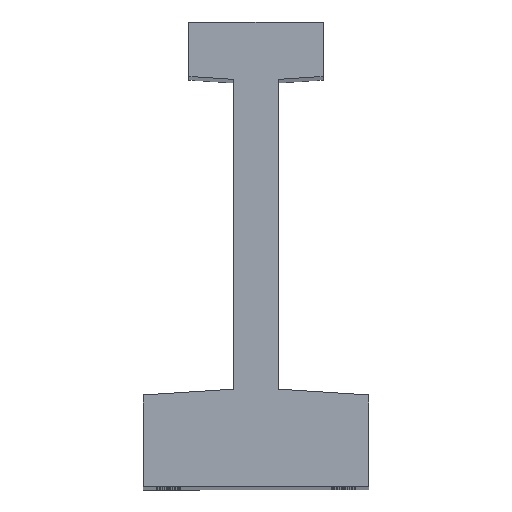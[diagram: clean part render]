
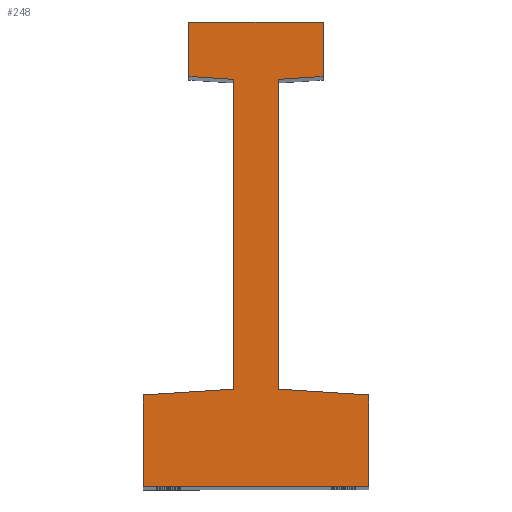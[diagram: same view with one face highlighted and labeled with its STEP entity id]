
A CAD part, top view. The second image highlights one B-rep face of the part: STEP entity #248.
In plain terms, the highlighted planar face has unit normal (0, 0, 1).
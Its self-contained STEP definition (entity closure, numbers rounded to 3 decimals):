
#32 = FACE_OUTER_BOUND ( 'NONE', #2908, .T. ) ;
#36 = LINE ( 'NONE', #3907, #3831 ) ;
#80 = LINE ( 'NONE', #543, #2526 ) ;
#163 = CARTESIAN_POINT ( 'NONE',  ( 0., 0., 361. ) ) ;
#196 = LINE ( 'NONE', #2015, #655 ) ;
#248 = ADVANCED_FACE ( 'NONE', ( #32 ), #4283, .T. ) ;
#255 = VECTOR ( 'NONE', #3671, 1000. ) ;
#257 = LINE ( 'NONE', #509, #934 ) ;
#367 = VERTEX_POINT ( 'NONE', #2064 ) ;
#435 = VECTOR ( 'NONE', #532, 1000. ) ;
#509 = CARTESIAN_POINT ( 'NONE',  ( 19.25, -63.7, 361. ) ) ;
#528 = DIRECTION ( 'NONE',  ( 1., 0., 0. ) ) ;
#532 = DIRECTION ( 'NONE',  ( -1., 0., 0. ) ) ;
#543 = CARTESIAN_POINT ( 'NONE',  ( 3.8, -62.7, 361. ) ) ;
#561 = DIRECTION ( 'NONE',  ( 0.998, -0.065, 0. ) ) ;
#564 = DIRECTION ( 'NONE',  ( 1., 0., 0. ) ) ;
#583 = DIRECTION ( 'NONE',  ( 0., 0., 1. ) ) ;
#655 = VECTOR ( 'NONE', #1660, 1000. ) ;
#843 = ORIENTED_EDGE ( 'NONE', *, *, #2538, .T. ) ;
#907 = CARTESIAN_POINT ( 'NONE',  ( -11.45, -9.3, 361. ) ) ;
#934 = VECTOR ( 'NONE', #4166, 1000. ) ;
#961 = DIRECTION ( 'NONE',  ( 0.998, 0.065, 0. ) ) ;
#971 = EDGE_CURVE ( 'NONE', #3815, #3046, #80, .T. ) ;
#1002 = EDGE_CURVE ( 'NONE', #2939, #3719, #3383, .T. ) ;
#1061 = CARTESIAN_POINT ( 'NONE',  ( 3.8, -9.795, 361. ) ) ;
#1138 = EDGE_CURVE ( 'NONE', #2225, #3178, #1887, .T. ) ;
#1319 = DIRECTION ( 'NONE',  ( 0., -1., 0. ) ) ;
#1344 = CARTESIAN_POINT ( 'NONE',  ( 3.8, -62.7, 361. ) ) ;
#1390 = EDGE_CURVE ( 'NONE', #3406, #1837, #2686, .T. ) ;
#1438 = VECTOR ( 'NONE', #4483, 1000. ) ;
#1450 = CARTESIAN_POINT ( 'NONE',  ( 19.25, -63.7, 361. ) ) ;
#1502 = EDGE_CURVE ( 'NONE', #4363, #2651, #4091, .T. ) ;
#1521 = LINE ( 'NONE', #3498, #3659 ) ;
#1551 = ORIENTED_EDGE ( 'NONE', *, *, #1390, .T. ) ;
#1636 = CARTESIAN_POINT ( 'NONE',  ( 11.45, -9.3, 361. ) ) ;
#1639 = DIRECTION ( 'NONE',  ( -0.998, 0.065, 0. ) ) ;
#1660 = DIRECTION ( 'NONE',  ( -0.998, -0.065, 0. ) ) ;
#1712 = CARTESIAN_POINT ( 'NONE',  ( -3.8, -9.795, 361. ) ) ;
#1748 = ORIENTED_EDGE ( 'NONE', *, *, #1138, .T. ) ;
#1833 = VECTOR ( 'NONE', #2498, 1000. ) ;
#1837 = VERTEX_POINT ( 'NONE', #2590 ) ;
#1887 = LINE ( 'NONE', #3579, #1833 ) ;
#1923 = CARTESIAN_POINT ( 'NONE',  ( -3.8, -62.7, 361. ) ) ;
#2015 = CARTESIAN_POINT ( 'NONE',  ( -19.25, -63.7, 361. ) ) ;
#2033 = EDGE_CURVE ( 'NONE', #367, #2225, #196, .T. ) ;
#2064 = CARTESIAN_POINT ( 'NONE',  ( -3.8, -62.7, 361. ) ) ;
#2183 = LINE ( 'NONE', #4210, #3259 ) ;
#2225 = VERTEX_POINT ( 'NONE', #4253 ) ;
#2230 = ORIENTED_EDGE ( 'NONE', *, *, #2033, .T. ) ;
#2237 = LINE ( 'NONE', #1061, #255 ) ;
#2367 = EDGE_CURVE ( 'NONE', #3046, #4363, #2237, .T. ) ;
#2498 = DIRECTION ( 'NONE',  ( 0., -1., 0. ) ) ;
#2508 = CARTESIAN_POINT ( 'NONE',  ( -3.8, -9.795, 361. ) ) ;
#2526 = VECTOR ( 'NONE', #1639, 1000. ) ;
#2538 = EDGE_CURVE ( 'NONE', #3719, #367, #4249, .T. ) ;
#2584 = ORIENTED_EDGE ( 'NONE', *, *, #1502, .T. ) ;
#2590 = CARTESIAN_POINT ( 'NONE',  ( -11.45, 0., 361. ) ) ;
#2651 = VERTEX_POINT ( 'NONE', #1636 ) ;
#2686 = LINE ( 'NONE', #4574, #435 ) ;
#2765 = CARTESIAN_POINT ( 'NONE',  ( 11.45, -9.3, 361. ) ) ;
#2842 = ORIENTED_EDGE ( 'NONE', *, *, #4581, .T. ) ;
#2848 = ORIENTED_EDGE ( 'NONE', *, *, #971, .T. ) ;
#2851 = CARTESIAN_POINT ( 'NONE',  ( 19.25, -79.3, 361. ) ) ;
#2859 = DIRECTION ( 'NONE',  ( 0., 1., 0. ) ) ;
#2908 = EDGE_LOOP ( 'NONE', ( #2584, #3214, #1551, #2842, #3086, #843, #2230, #1748, #4204, #4280, #2848, #3991 ) ) ;
#2933 = CARTESIAN_POINT ( 'NONE',  ( -19.25, -79.3, 361. ) ) ;
#2939 = VERTEX_POINT ( 'NONE', #907 ) ;
#3046 = VERTEX_POINT ( 'NONE', #1344 ) ;
#3086 = ORIENTED_EDGE ( 'NONE', *, *, #1002, .T. ) ;
#3106 = CARTESIAN_POINT ( 'NONE',  ( 3.8, -9.795, 361. ) ) ;
#3178 = VERTEX_POINT ( 'NONE', #2933 ) ;
#3214 = ORIENTED_EDGE ( 'NONE', *, *, #3621, .T. ) ;
#3259 = VECTOR ( 'NONE', #1319, 1000. ) ;
#3383 = LINE ( 'NONE', #1712, #4010 ) ;
#3406 = VERTEX_POINT ( 'NONE', #4094 ) ;
#3498 = CARTESIAN_POINT ( 'NONE',  ( 19.25, -79.3, 361. ) ) ;
#3579 = CARTESIAN_POINT ( 'NONE',  ( -19.25, -79.3, 361. ) ) ;
#3621 = EDGE_CURVE ( 'NONE', #2651, #3406, #36, .T. ) ;
#3659 = VECTOR ( 'NONE', #564, 1000. ) ;
#3671 = DIRECTION ( 'NONE',  ( 0., 1., 0. ) ) ;
#3719 = VERTEX_POINT ( 'NONE', #2508 ) ;
#3815 = VERTEX_POINT ( 'NONE', #1450 ) ;
#3831 = VECTOR ( 'NONE', #2859, 1000. ) ;
#3907 = CARTESIAN_POINT ( 'NONE',  ( 11.45, 0., 361. ) ) ;
#3991 = ORIENTED_EDGE ( 'NONE', *, *, #2367, .T. ) ;
#4010 = VECTOR ( 'NONE', #561, 1000. ) ;
#4091 = LINE ( 'NONE', #2765, #4480 ) ;
#4094 = CARTESIAN_POINT ( 'NONE',  ( 11.45, 0., 361. ) ) ;
#4124 = VERTEX_POINT ( 'NONE', #2851 ) ;
#4166 = DIRECTION ( 'NONE',  ( 0., 1., 0. ) ) ;
#4204 = ORIENTED_EDGE ( 'NONE', *, *, #4617, .T. ) ;
#4210 = CARTESIAN_POINT ( 'NONE',  ( -11.45, -9.3, 361. ) ) ;
#4249 = LINE ( 'NONE', #1923, #1438 ) ;
#4253 = CARTESIAN_POINT ( 'NONE',  ( -19.25, -63.7, 361. ) ) ;
#4258 = AXIS2_PLACEMENT_3D ( 'NONE', #163, #583, #528 ) ;
#4280 = ORIENTED_EDGE ( 'NONE', *, *, #4409, .T. ) ;
#4283 = PLANE ( 'NONE',  #4258 ) ;
#4363 = VERTEX_POINT ( 'NONE', #3106 ) ;
#4409 = EDGE_CURVE ( 'NONE', #4124, #3815, #257, .T. ) ;
#4480 = VECTOR ( 'NONE', #961, 1000. ) ;
#4483 = DIRECTION ( 'NONE',  ( 0., -1., 0. ) ) ;
#4574 = CARTESIAN_POINT ( 'NONE',  ( -11.45, 0., 361. ) ) ;
#4581 = EDGE_CURVE ( 'NONE', #1837, #2939, #2183, .T. ) ;
#4617 = EDGE_CURVE ( 'NONE', #3178, #4124, #1521, .T. ) ;
